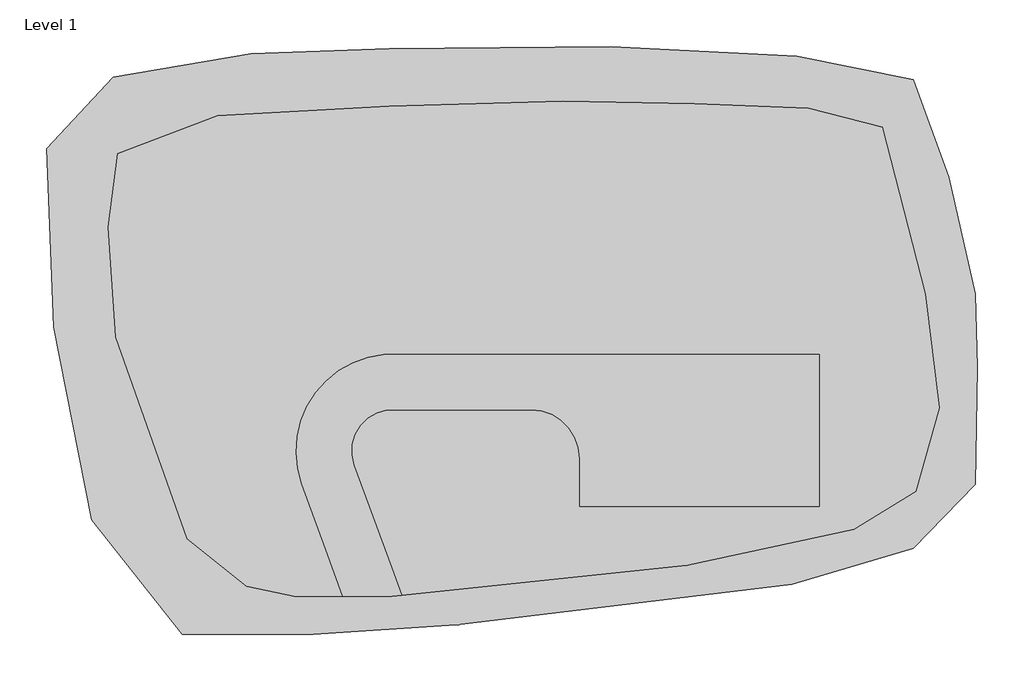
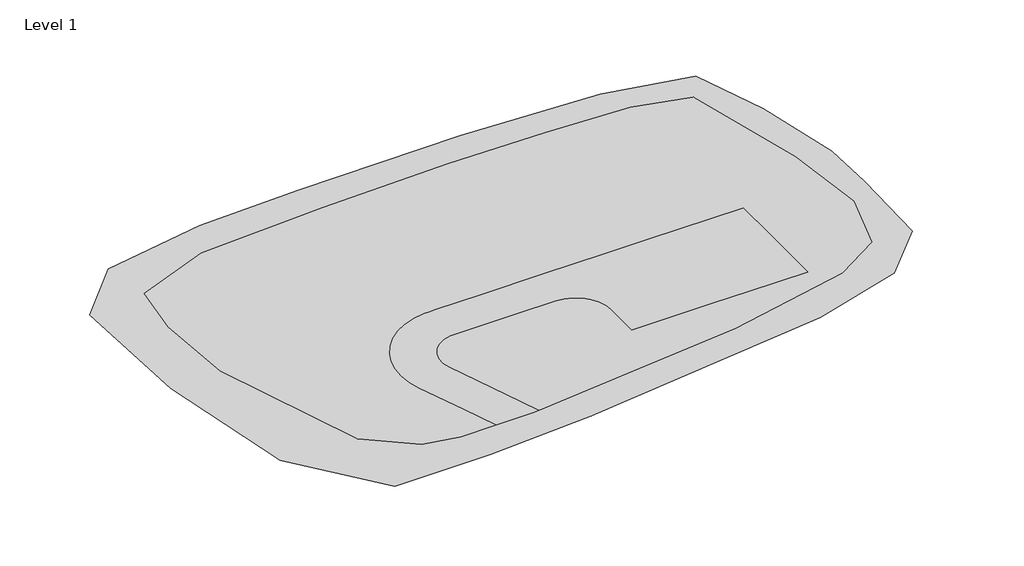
# One storey: 3 proxies.
"""IFC4 building model written with IfcOpenShell, lengths in millimetres."""

import ifcopenshell
import ifcopenshell.guid

model = None  # the IFC model being written
_history = None  # IfcOwnerHistory: only IFC2X3 demands one
_inside = {}  # id of a spatial element -> (the spatial element, [elements in it])
_under = {}  # id of a project, library or spatial element -> (it, [spatial elements below it])
_declared = {}  # id of a project -> (the project, [libraries it declares])
_typed = {}  # id of a type object -> (the type object, [elements of that type])
_made_of = {}  # id of a material, layer set ... -> (it, [elements and type objects made of it])


def new_model(schema):
    """Start an empty IFC model of exactly this schema.

    Asked for "IFC4X3", IfcOpenShell would pick the latest addendum, in which some entities
    have other attributes; the version numbers below select the first issue.
    IFC2X3 requires an IfcOwnerHistory on every rooted entity: one is made here for all.
    """
    global model, _history
    if schema == "IFC4X3":
        model = ifcopenshell.file(schema_version=(4, 3, 0, 0))
    else:
        model = ifcopenshell.file(schema=schema)
    _inside.clear()
    _under.clear()
    _declared.clear()
    _typed.clear()
    _made_of.clear()
    _history = None
    if model.schema == "IFC2X3":
        org = make("IfcOrganization", Name="unknown")
        user = make(
            "IfcPersonAndOrganization",
            ThePerson=make("IfcPerson", FamilyName="unknown"),
            TheOrganization=org,
        )
        app = make(
            "IfcApplication",
            ApplicationDeveloper=org,
            Version="unknown",
            ApplicationFullName="unknown",
            ApplicationIdentifier="unknown",
        )
        _history = make(
            "IfcOwnerHistory",
            OwningUser=user,
            OwningApplication=app,
            ChangeAction="ADDED",
            CreationDate=0,
        )
    return model


def make(cls, **values):
    """One entity of the class cls with the attributes given. An attribute that is None is left unset."""
    return model.create_entity(
        cls, **{name: value for name, value in values.items() if value is not None}
    )


def rooted(cls, **values):
    """An entity with a GlobalId (a new one), such as an element, a storey or a relation."""
    return make(cls, GlobalId=ifcopenshell.guid.new(), OwnerHistory=_history, **values)


def si_unit(unit_type, name, prefix=None):
    """IfcSIUnit, for example si_unit("LENGTHUNIT", "METRE", prefix="MILLI")."""
    return make("IfcSIUnit", UnitType=unit_type, Prefix=prefix, Name=name)


def assignment(units):
    """IfcUnitAssignment: the units of a project."""
    return None if units is None else make("IfcUnitAssignment", Units=units)


def point(xyz):
    """IfcCartesianPoint."""
    return None if xyz is None else make("IfcCartesianPoint", Coordinates=xyz)


def direction(xyz):
    """IfcDirection."""
    return None if xyz is None else make("IfcDirection", DirectionRatios=xyz)


def frame(location, z_axis=None, x_axis=None):
    """IfcAxis2Placement3D, a coordinate frame: its origin and axes. An axis left out is left unset."""
    return make(
        "IfcAxis2Placement3D",
        Location=point(location),
        Axis=direction(z_axis),
        RefDirection=direction(x_axis),
    )


def origin():
    """The frame at (0, 0, 0) with its axes left unset."""
    return frame((0.0, 0.0, 0.0))


def place(relative_to, where):
    """IfcLocalPlacement: puts the frame where relative to a parent placement (None: the world)."""
    return make(
        "IfcLocalPlacement", PlacementRelTo=relative_to, RelativePlacement=where
    )


def context(
    kind, dimensions, precision=None, world=None, true_north=None, identifier=None
):
    """IfcGeometricRepresentationContext, for example the 3D "Model" context."""
    return make(
        "IfcGeometricRepresentationContext",
        ContextIdentifier=identifier,
        ContextType=kind,
        CoordinateSpaceDimension=dimensions,
        Precision=precision,
        WorldCoordinateSystem=world,
        TrueNorth=true_north,
    )


def project(units=None, contexts=None):
    """IfcProject with its units and contexts."""
    return rooted(
        "IfcProject",
        Name="project",
        RepresentationContexts=contexts,
        UnitsInContext=assignment(units),
    )


def spatial(cls, under=None, at=None, **own):
    """A site, building, storey or space (cls), placed at a placement, below another one or the project."""
    s = rooted(cls, ObjectPlacement=at, **own)
    if under is not None:
        _under.setdefault(under.id(), (under, []))[1].append(s)
    return s


def point_list(points):
    """IfcCartesianPointList2D or 3D."""
    cls = (
        "IfcCartesianPointList2D" if len(points[0]) == 2 else "IfcCartesianPointList3D"
    )
    return make(cls, CoordList=points)


def triangles(points, corners, closed=None, point_numbers=None):
    """IfcTriangulatedFaceSet: each triangle names its three corners, points numbered from 1."""
    return make(
        "IfcTriangulatedFaceSet",
        Coordinates=point_list(points),
        Closed=closed,
        CoordIndex=corners,
        PnIndex=point_numbers,
    )


def shape(context_of_items, identifier, shape_type, items):
    """IfcShapeRepresentation: the items that make up one representation, for example the "Body"."""
    return make(
        "IfcShapeRepresentation",
        ContextOfItems=context_of_items,
        RepresentationIdentifier=identifier,
        RepresentationType=shape_type,
        Items=items,
    )


def made_of(thing, what):
    """Note that an element or type object is made of a material, layer set ...; save() writes the relation."""
    if what is not None:
        _made_of.setdefault(what.id(), (what, []))[1].append(thing)
    return thing


def element(
    cls,
    number,
    at=None,
    inside=None,
    cuts=None,
    type_object=None,
    material=None,
    context=None,
    identifier="Body",
    shape_type=None,
    held_by="IfcProductDefinitionShape",
    body=None,
    shapes=None,
    **own,
):
    """One element of the class cls, such as IfcWall. Its Tag is "e" and its number.

    at: its placement. inside: the storey or other place that contains it. cuts: it is an
    opening in that element (IfcRelVoidsElement). A single representation is given by context,
    identifier, shape_type and body (its items); several are given by shapes. held_by: the class
    of the entity that holds the representations. save() writes the other relations.
    """
    e = rooted(cls, Tag="e%d" % number, ObjectPlacement=at, **own)
    if body is not None:
        shapes = [shape(context, identifier, shape_type, body)]
    if shapes is not None:
        e.Representation = make(held_by, Representations=shapes)
    if inside is not None:
        _inside.setdefault(inside.id(), (inside, []))[1].append(e)
    if cuts is not None:
        rooted(
            "IfcRelVoidsElement", RelatingBuildingElement=cuts, RelatedOpeningElement=e
        )
    if type_object is not None:
        _typed.setdefault(type_object.id(), (type_object, []))[1].append(e)
    return made_of(e, material)


def aggregate(whole, parts):
    """IfcRelAggregates: a whole, such as a stair, and the parts it consists of."""
    return rooted("IfcRelAggregates", RelatingObject=whole, RelatedObjects=parts)


def save(model, path):
    """Write the relations noted so far, then the file.

    IfcRelAggregates (storeys below a building ...), IfcRelContainedInSpatialStructure (elements
    in a storey), IfcRelDefinesByType, IfcRelAssociatesMaterial and IfcRelDeclares: one each for
    every whole, place, type object, material and project.
    """
    for whole, parts in _under.values():
        aggregate(whole, parts)
    for where, things in _inside.values():
        rooted(
            "IfcRelContainedInSpatialStructure",
            RelatedElements=things,
            RelatingStructure=where,
        )
    for kind, things in _typed.values():
        rooted("IfcRelDefinesByType", RelatedObjects=things, RelatingType=kind)
    for what, things in _made_of.values():
        rooted("IfcRelAssociatesMaterial", RelatedObjects=things, RelatingMaterial=what)
    for by, libraries in _declared.values():
        rooted("IfcRelDeclares", RelatingContext=by, RelatedDefinitions=libraries)
    model.write(path)


model = new_model("IFC4")

# Units and contexts
model_context = context("Model", 3, world=origin())
ifc_project = project(units=[si_unit("LENGTHUNIT", "METRE", prefix="MILLI")], contexts=[model_context])

# Site, building, storey
site = spatial("IfcSite", under=ifc_project)
building = spatial("IfcBuilding", under=site)
storey = spatial("IfcBuildingStorey", under=building, Name="Level 1", Elevation=0.0)

# Proxies
placement = place(None, origin())
element("IfcBuildingElementProxy", 1, Name="Building Element Proxy", at=placement, inside=storey, context=model_context, shape_type="Tessellation", body=[
    triangles([(-16670.5417511, 5651.6538666, 0.0), (-16985.1585938, 8011.2813492, 0.0), (-14782.8395325, 10370.9088318, 0.0), (-10220.8924072, 11157.4515198, 0.0), (-5658.9458633, 11314.7593597, 0.0), (1655.8995071, 11393.4138611, 0.0), (7790.931427, 11078.7970184, 0.0), (11644.9892029, 10292.2543304, 0.0), (12824.8032349, 7067.4302399, 0.0), (13690.0004242, 3213.3718826, 0.0), (13768.6549255, 775.090044, 0.0), (13690.0004242, -3078.9684586, 0.0), (11644.9892029, -5202.6330185, 0.0), (7633.6230057, -6382.4470505, 0.0), (2757.0590378, -6854.3723145, 0.0), (-3456.6268021, -7719.5695038, 0.0), (-8175.8823486, -8034.1863464, 0.0), (-12501.8659698, -8034.1863464, 0.0), (-15490.7277191, -4258.7821999, 0.0), (-16749.1962524, 2112.212352, 0.0)], [[20, 19, 17], [20, 17, 5], [17, 19, 18], [5, 17, 16], [2, 1, 3], [1, 2, 20], [1, 4, 3], [1, 20, 4], [20, 5, 4], [16, 6, 5], [7, 15, 14], [14, 15, 16], [13, 12, 11], [13, 11, 14], [10, 14, 11], [6, 15, 7], [7, 9, 8], [9, 7, 10], [14, 10, 7], [15, 6, 16]], closed=False),
])
element("IfcBuildingElementProxy", 2, Name="Building Element Proxy", at=placement, inside=storey, context=model_context, shape_type="Tessellation", body=[
    triangles([(-14940.1473724, 5415.6909439, 304.8), (-14704.1850311, 1797.595364, 304.8), (-12344.5569672, -4888.0161758, 304.8), (-10378.2014099, -6461.1009705, 304.8), (-8805.1160339, -6775.7183945, 304.8), (-7192.7039886, -6775.7183945, 304.8), (-7757.5573013, -5232.607933, 304.8), (-8548.5869247, -3071.6119308, 304.8), (-8688.8417358, -2560.4969078, 304.8), (-8742.6256622, -2033.2238594, 304.8), (-8708.4579803, -1504.3170444, 304.8), (-8587.2787491, -988.3466492, 304.8), (-8382.4267181, -499.5261229, 304.8), (-8099.5451477, -51.3211407, 304.8), (-7746.426004, 343.9215219, 304.8), (-7332.7971817, 675.3140121, 304.8), (-6870.0527527, 933.727454, 304.8), (-6370.9401947, 1112.043314, 304.8), (-5849.2086685, 1205.3493919, 304.8), (-5619.0471359, 1207.8360861, 304.8), (-5319.2305527, 1211.0754232, 304.8), (-3235.2313042, 1211.0754232, 304.8), (-497.5126193, 1211.0754232, 304.8), (2315.692083, 1211.0754232, 304.8), (4280.5308723, 1211.0754232, 304.8), (8549.1694473, 1211.0754232, 304.8), (8549.1694473, -764.1921627, 304.8), (8549.1694473, -3818.1245041, 304.8), (5870.2818008, -3818.1245041, 304.8), (4202.7597473, -3818.1245041, 304.8), (3656.8119667, -3818.1245041, 304.8), (624.3696653, -3818.1245041, 304.8), (624.3696653, -2222.0813725, 304.8), (584.1608914, -1865.2185619, 304.8), (465.5507984, -1526.250444, 304.8), (274.4870065, -1222.1742371, 304.8), (20.5502514, -968.2374115, 304.8), (-283.526026, -777.1736378, 304.8), (-622.4941984, -658.5635811, 304.8), (-627.0559839, -658.0495863, 304.8), (-979.3569363, -618.3547709, 304.8), (-2695.5491295, -618.3547709, 304.8), (-5399.2907822, -618.3547709, 304.8), (-5610.1651199, -621.8167688, 304.8), (-5744.8435272, -624.0278984, 304.8), (-6077.8842453, -716.3483534, 304.8), (-6377.0409851, -889.3920788, 304.8), (-6623.117244, -1132.0549559, 304.8), (-6800.3227066, -1428.765406, 304.8), (-6897.2865555, -1760.4836758, 304.8), (-6907.7853333, -2105.9234917, 304.8), (-6831.1469879, -2442.9180382, 304.8), (-5584.7951569, -5848.0168808, 304.8), (-5257.4569977, -6742.3215958, 304.8), (-1018.3451088, -6303.7925491, 304.8), (4172.8357018, -5753.2127838, 304.8), (9678.6330643, -4573.3990425, 304.8), (11723.6437042, -3314.9310905, 304.8), (12510.1863922, -562.0322639, 304.8), (12038.2605469, 3213.3718826, 304.8), (10622.4841736, 8719.1695358, 304.8), (8184.202771, 9348.4038025, 304.8), (4408.7983337, 9505.7122238, 304.8), (82.8144582, 9584.3661438, 304.8), (-5658.9458633, 9427.0577225, 304.8), (-11322.0519379, 9112.4408798, 304.8), (-14625.5305298, 7853.9729279, 304.8), (11173.0645203, 6516.8504745, 304.8), (-13681.6800018, -1033.9578186, 304.8)], [[9, 3, 8], [3, 4, 8], [3, 9, 10], [69, 10, 11], [10, 69, 3], [11, 12, 69], [69, 12, 13], [7, 4, 5], [3, 69, 2], [7, 8, 4], [7, 5, 6], [44, 50, 51], [49, 44, 48], [44, 51, 52], [50, 44, 49], [44, 52, 43], [13, 14, 2], [15, 16, 1], [14, 15, 2], [2, 15, 1], [66, 67, 1], [16, 66, 1], [16, 17, 66], [13, 2, 69], [46, 47, 44], [44, 45, 46], [47, 48, 44], [17, 18, 65], [19, 20, 65], [65, 20, 21], [19, 65, 18], [17, 65, 66], [42, 52, 53], [42, 53, 55], [32, 33, 41], [32, 42, 55], [34, 40, 33], [36, 37, 40], [40, 35, 36], [40, 34, 35], [40, 37, 38], [56, 29, 30], [29, 56, 28], [28, 57, 58], [57, 28, 56], [31, 32, 56], [27, 28, 58], [27, 58, 59], [31, 56, 30], [56, 32, 55], [42, 32, 41], [41, 33, 40], [52, 42, 43], [22, 23, 64], [24, 64, 23], [64, 65, 22], [22, 65, 21], [38, 39, 40], [63, 24, 25], [26, 59, 60], [62, 25, 26], [63, 25, 62], [61, 68, 60], [68, 61, 62], [62, 26, 68], [26, 60, 68], [24, 63, 64], [59, 26, 27], [53, 54, 55]], closed=False),
])
element("IfcBuildingElementProxy", 3, Name="Building Element Proxy", at=placement, inside=storey, context=model_context, shape_type="Tessellation", body=[
    triangles([(-5580.2919434, -6775.7183945, 304.8), (-5257.4569977, -6742.3215958, 304.8), (-5584.7951569, -5848.0168808, 304.8), (-6831.1469879, -2442.9180382, 304.8), (-6907.7853333, -2105.9234917, 304.8), (-6897.2865555, -1760.4836758, 304.8), (-6800.3227066, -1428.765406, 304.8), (-6623.117244, -1132.0549559, 304.8), (-6377.0409851, -889.3920788, 304.8), (-6077.8842453, -716.3483534, 304.8), (-5744.8435272, -624.0278984, 304.8), (-5610.1651199, -621.8167688, 304.8), (-5399.2907822, -618.3547709, 304.8), (-2695.5491295, -618.3547709, 304.8), (-979.3569363, -618.3547709, 304.8), (-627.0559839, -658.0495863, 304.8), (-622.4941984, -658.5635811, 304.8), (-283.526026, -777.1736378, 304.8), (20.5502514, -968.2374115, 304.8), (274.4870065, -1222.1742371, 304.8), (465.5507984, -1526.250444, 304.8), (584.1608914, -1865.2185619, 304.8), (624.3696653, -2222.0813725, 304.8), (624.3696653, -3818.1245041, 304.8), (3656.8119667, -3818.1245041, 304.8), (4202.7597473, -3818.1245041, 304.8), (5870.2818008, -3818.1245041, 304.8), (8549.1694473, -3818.1245041, 304.8), (8549.1694473, -764.1921627, 304.8), (8549.1694473, 1211.0754232, 304.8), (4280.5308723, 1211.0754232, 304.8), (2315.692083, 1211.0754232, 304.8), (-497.5126193, 1211.0754232, 304.8), (-3235.2313042, 1211.0754232, 304.8), (-5319.2305527, 1211.0754232, 304.8), (-5619.0471359, 1207.8360861, 304.8), (-5849.2086685, 1205.3493919, 304.8), (-6370.9401947, 1112.043314, 304.8), (-6870.0527527, 933.727454, 304.8), (-7332.7971817, 675.3140121, 304.8), (-7746.426004, 343.9215219, 304.8), (-8099.5451477, -51.3211407, 304.8), (-8382.4267181, -499.5261229, 304.8), (-8587.2787491, -988.3466492, 304.8), (-8708.4579803, -1504.3170444, 304.8), (-8742.6256622, -2033.2238594, 304.8), (-8688.8417358, -2560.4969078, 304.8), (-8548.5869247, -3071.6119308, 304.8), (-7757.5573013, -5232.607933, 304.8), (-7192.7039886, -6775.7183945, 304.8)], [[4, 48, 49], [4, 47, 48], [45, 46, 6], [47, 5, 46], [49, 50, 3], [4, 5, 47], [3, 4, 49], [44, 6, 7], [45, 6, 44], [5, 6, 46], [50, 1, 3], [43, 7, 8], [8, 42, 43], [42, 8, 41], [41, 9, 40], [39, 40, 10], [44, 7, 43], [10, 11, 38], [10, 38, 39], [38, 11, 37], [36, 12, 13], [36, 37, 11], [12, 36, 11], [10, 40, 9], [41, 8, 9], [32, 20, 21], [32, 19, 20], [21, 22, 32], [26, 31, 25], [27, 31, 26], [23, 24, 25], [32, 22, 25], [25, 22, 23], [29, 27, 28], [13, 14, 34], [13, 34, 35], [33, 34, 14], [15, 33, 14], [15, 16, 33], [13, 35, 36], [33, 17, 18], [31, 27, 29], [25, 31, 32], [18, 19, 33], [19, 32, 33], [29, 30, 31], [17, 33, 16], [2, 3, 1]], closed=False),
])

save(model, "model.ifc")
